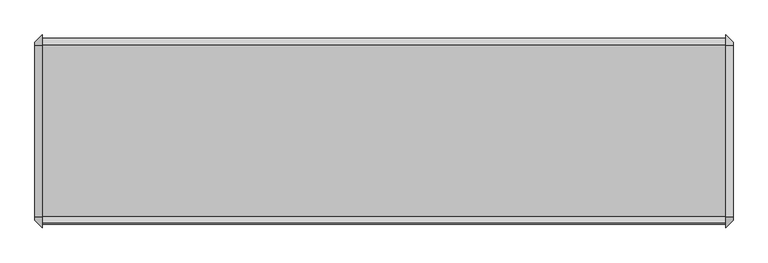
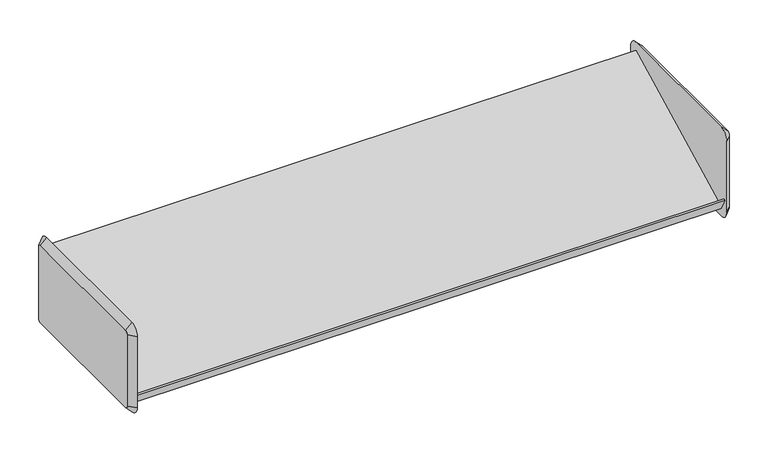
"""IFC4 building model written with IfcOpenShell, lengths in millimetres: furniture geometry."""

from ifc_helpers import new_model, si_unit, frame, origin, place, context, project, spatial, polyline, circle_curve, outline, extrude, source, transform, mapped, element, save
from ifc_brep_helpers import plane_surface, revolved_surface, advanced_brep


def furniture_a5020ea5(model_context):
    return source(origin(), model_context, "Body", "SolidModel", [
        advanced_brep(
        [(485.6579955, 161.925, 1092.2), (485.6579955, -136.525, 1092.2), (485.6579955, -142.875, 1085.85), (485.6579955, -142.875, 933.45), (485.6579955, -136.525, 927.1), (485.6579955, 161.925, 927.1), (485.6579955, 168.275, 933.45), (485.6579955, 168.275, 1085.85), (472.9579955, 161.925, 1104.9), (472.9579955, 180.975, 1085.85), (472.9579955, 180.975, 933.45), (472.9579955, 161.925, 914.4), (472.9579955, -136.525, 914.4), (472.9579955, -155.575, 933.45), (472.9579955, -155.575, 1085.85), (472.9579955, -136.525, 1104.9)],
        [
            (0, 1),
            (1, 2, circle_curve(frame((485.6579955, -136.525, 1085.85), z_axis=(1.0, 2.0756729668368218e-12, -2.174260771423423e-12), x_axis=(2.1742640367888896e-12, 0.0, 1.0)), 6.35)),
            (2, 3),
            (3, 4, circle_curve(frame((485.6579955, -136.525, 933.45), z_axis=(1.0, 2.0623502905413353e-12, 2.046363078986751e-12), x_axis=(2.0623164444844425e-12, -1.0, 0.0)), 6.35)),
            (4, 5),
            (5, 6, circle_curve(frame((485.6579955, 161.925, 933.45), z_axis=(1.0, 2.0889956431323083e-12, -2.0996537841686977e-12), x_axis=(-2.0996846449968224e-12, 0.0, -1.0)), 6.35)),
            (6, 7),
            (7, 0, circle_curve(frame((485.6579955, 161.925, 1085.85), z_axis=(1.0, 2.0783375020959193e-12, 1.971756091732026e-12), x_axis=(-2.0783313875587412e-12, 1.0, 0.0)), 6.35)),
            (8, 9, circle_curve(frame((472.9579955, 161.925, 1085.85), z_axis=(-1.0, -2.0783375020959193e-12, -1.971756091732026e-12), x_axis=(-2.0783313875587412e-12, 1.0, 0.0)), 19.05)),
            (9, 10),
            (10, 11, circle_curve(frame((472.9579955, 161.925, 933.45), z_axis=(-1.0, -2.0889956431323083e-12, 2.0996537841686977e-12), x_axis=(-2.0996846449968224e-12, 0.0, -1.0)), 19.05)),
            (11, 12),
            (12, 13, circle_curve(frame((472.9579955, -136.525, 933.45), z_axis=(-1.0, -2.0623502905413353e-12, -2.046363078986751e-12), x_axis=(2.0623164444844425e-12, -1.0, 0.0)), 19.05)),
            (13, 14),
            (14, 15, circle_curve(frame((472.9579955, -136.525, 1085.85), z_axis=(-1.0, -2.0756729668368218e-12, 2.174260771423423e-12), x_axis=(2.1742640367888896e-12, 0.0, 1.0)), 19.05)),
            (15, 8),
            (15, 1),
            (0, 8),
            (14, 2),
            (13, 3),
            (12, 4),
            (11, 5),
            (10, 6),
            (9, 7),
        ],
        [
            plane_surface(frame((485.6579955, 12.7, 1009.65), z_axis=(1.0, 0.0, 0.0), x_axis=(0.0, -1.0, 0.0))),
            plane_surface(frame((472.9579955, 12.7, 1009.65), z_axis=(-1.0, 0.0, 0.0), x_axis=(0.0, -1.0, 0.0))),
            plane_surface(frame((472.9579955, 12.7, 1104.9), z_axis=(0.7071067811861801, 0.0, 0.707106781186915), x_axis=(0.0, -1.0, 0.0))),
            revolved_surface(polyline([(485.65799550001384, -136.525, 1092.1999999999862), (472.9579955, -136.525, 1104.9)]), (492.0079955, -136.525, 1085.85), (-1.0, -2.0756729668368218e-12, 2.174260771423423e-12)),
            plane_surface(frame((472.9579955, -155.575, 1009.65), z_axis=(0.7071067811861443, -0.7071067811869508, 0.0), x_axis=(0.0, 0.0, -1.0))),
            revolved_surface(polyline([(485.6579955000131, -142.87499999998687, 933.45), (472.9579955, -155.575, 933.45)]), (492.0079955, -136.525, 933.45), (-1.0, -2.0623502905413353e-12, -2.046363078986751e-12)),
            plane_surface(frame((472.9579955, 12.7, 914.4), z_axis=(0.7071067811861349, 0.0, -0.7071067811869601), x_axis=(0.0, 1.0, 0.0))),
            revolved_surface(polyline([(485.6579955, 161.925, 927.1), (472.95799549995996, 161.925, 914.39999999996)]), (492.0079955, 161.925, 933.45), (-1.0, -2.0889956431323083e-12, 2.0996537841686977e-12)),
            plane_surface(frame((472.9579955, 180.975, 1009.65), z_axis=(0.7071067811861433, 0.7071067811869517, 0.0), x_axis=(0.0, 0.0, 1.0))),
            revolved_surface(polyline([(485.6579955, 168.27499999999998, 1085.85), (472.95799549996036, 180.97500000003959, 1085.85)]), (492.0079955, 161.925, 1085.85), (-1.0, -2.0783375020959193e-12, -1.971756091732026e-12)),
        ],
        [
            (0, [[1, 2, 3, 4, 5, 6, 7, 8]]),
            (1, [[9, 10, 11, 12, 13, 14, 15, 16]]),
            (2, [[-16, 17, -1, 18]]),
            (3, [[-15, 19, -2, -17]]),
            (4, [[-14, 20, -3, -19]]),
            (5, [[-13, 21, -4, -20]]),
            (6, [[-12, 22, -5, -21]]),
            (7, [[-11, 23, -6, -22]]),
            (8, [[-10, 24, -7, -23]]),
            (9, [[-9, -18, -8, -24]]),
        ],
    ),
        advanced_brep(
        [(-733.5420045, -136.525, 1092.2), (-733.5420045, 161.925, 1092.2), (-733.5420045, 168.275, 1085.85), (-733.5420045, 168.275, 933.45), (-733.5420045, 161.925, 927.1), (-733.5420045, -136.525, 927.1), (-733.5420045, -142.875, 933.45), (-733.5420045, -142.875, 1085.85), (-720.8420045, -136.525, 1104.9), (-720.8420045, -155.575, 1085.85), (-720.8420045, -155.575, 933.45), (-720.8420045, -136.525, 914.4), (-720.8420045, 161.925, 914.4), (-720.8420045, 180.975, 933.45), (-720.8420045, 180.975, 1085.85), (-720.8420045, 161.925, 1104.9)],
        [
            (0, 1),
            (1, 2, circle_curve(frame((-733.5420045, 161.925, 1085.85), z_axis=(-1.0, 0.0, 0.0), x_axis=(0.0, 0.0, 1.0)), 6.35)),
            (2, 3),
            (3, 4, circle_curve(frame((-733.5420045, 161.925, 933.45), z_axis=(-1.0, 0.0, 0.0), x_axis=(0.0, 1.0, 0.0)), 6.35)),
            (4, 5),
            (5, 6, circle_curve(frame((-733.5420045, -136.525, 933.45), z_axis=(-1.0, 0.0, 0.0), x_axis=(0.0, 0.0, -1.0)), 6.35)),
            (6, 7),
            (7, 0, circle_curve(frame((-733.5420045, -136.525, 1085.85), z_axis=(-1.0, 0.0, 0.0), x_axis=(0.0, -1.0, 0.0)), 6.35)),
            (8, 9, circle_curve(frame((-720.8420045, -136.525, 1085.85), z_axis=(1.0, 0.0, 0.0), x_axis=(0.0, -1.0, 0.0)), 19.05)),
            (9, 10),
            (10, 11, circle_curve(frame((-720.8420045, -136.525, 933.45), z_axis=(1.0, 0.0, 0.0), x_axis=(0.0, 0.0, -1.0)), 19.05)),
            (11, 12),
            (12, 13, circle_curve(frame((-720.8420045, 161.925, 933.45), z_axis=(1.0, 0.0, 0.0), x_axis=(0.0, 1.0, 0.0)), 19.05)),
            (13, 14),
            (14, 15, circle_curve(frame((-720.8420045, 161.925, 1085.85), z_axis=(1.0, 0.0, 0.0), x_axis=(0.0, 0.0, 1.0)), 19.05)),
            (15, 8),
            (15, 1),
            (0, 8),
            (14, 2),
            (13, 3),
            (12, 4),
            (11, 5),
            (10, 6),
            (9, 7),
        ],
        [
            plane_surface(frame((-733.5420045, 12.7, 1009.65), z_axis=(-1.0, 0.0, 0.0), x_axis=(0.0, -1.0, 0.0))),
            plane_surface(frame((-720.8420045, 12.7, 1009.65), z_axis=(1.0, 0.0, 0.0), x_axis=(0.0, -1.0, 0.0))),
            plane_surface(frame((-720.8420045, 12.7, 1104.9), z_axis=(-0.707106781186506, 0.0, 0.707106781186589), x_axis=(0.0, 1.0, 0.0))),
            revolved_surface(polyline([(-733.5420045, 161.925, 1092.2), (-720.8420045, 161.925, 1104.9)]), (-739.8920045, 161.925, 1085.85), (1.0, 0.0, 0.0)),
            plane_surface(frame((-720.8420045, 180.975, 1009.65), z_axis=(-0.7071067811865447, 0.7071067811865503, 0.0), x_axis=(0.0, 0.0, -1.0))),
            revolved_surface(polyline([(-733.5420045, 168.27500000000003, 933.45), (-720.8420045, 180.975, 933.45)]), (-739.8920045, 161.925, 933.45), (1.0, 0.0, 0.0)),
            plane_surface(frame((-720.8420045, 12.7, 914.4), z_axis=(-0.7071067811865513, 0.0, -0.7071067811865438), x_axis=(0.0, -1.0, 0.0))),
            revolved_surface(polyline([(-733.5420045, -136.525, 927.1), (-720.8420045, -136.525, 914.4)]), (-739.8920045, -136.525, 933.45), (1.0, 0.0, 0.0)),
            plane_surface(frame((-720.8420045, -155.575, 1009.65), z_axis=(-0.7071067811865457, -0.7071067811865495, 0.0), x_axis=(0.0, 0.0, 1.0))),
            revolved_surface(polyline([(-733.5420045, -142.87500000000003, 1085.85), (-720.8420045, -155.575, 1085.85)]), (-739.8920045, -136.525, 1085.85), (1.0, 0.0, 0.0)),
        ],
        [
            (0, [[1, 2, 3, 4, 5, 6, 7, 8]]),
            (1, [[9, 10, 11, 12, 13, 14, 15, 16]]),
            (2, [[-16, 17, -1, 18]]),
            (3, [[-15, 19, -2, -17]]),
            (4, [[-14, 20, -3, -19]]),
            (5, [[-13, 21, -4, -20]]),
            (6, [[-12, 22, -5, -21]]),
            (7, [[-11, 23, -6, -22]]),
            (8, [[-10, 24, -7, -23]]),
            (9, [[-9, -18, -8, -24]]),
        ],
    ),
        extrude(outline(polyline([(-137.2094993, 931.3179666), (-149.845093, 955.7467844), (-147.0173828, 957.1907216), (-135.8404765, 935.5820334), (162.5893131, 1087.9717194), (175.2453599, 1064.3470972), (172.4171401, 1062.9028998), (161.2606869, 1083.7282806), (-137.2094993, 931.3179666)])), frame((-720.8420045, 0.0, 0.0), z_axis=(1.0, 0.0, 0.0), x_axis=(0.0, 1.0, 0.0)), (0.0, 0.0, 1.0), 1193.8),
    ])


if __name__ == "__main__":
    model = new_model("IFC4")
    model_context = context("Model", 3, world=origin())
    ifc_project = project(units=[si_unit("LENGTHUNIT", "METRE", prefix="MILLI")], contexts=[model_context])
    site = spatial("IfcSite", under=ifc_project)
    building = spatial("IfcBuilding", under=site)
    placement = place(None, origin())
    furniture_shape = furniture_a5020ea5(model_context)
    element("IfcFurniture", 1, ObjectType="HermanMiller_ActionOffice_A3220_B-StyleStorageDisplay : Display 13\"D x 48\"W", at=placement, inside=building, context=model_context, shape_type="MappedRepresentation", body=[
        mapped(furniture_shape, transform((0.0, 0.0, 0.0), x_axis=(1.0, 0.0, 0.0), y_axis=(0.0, 1.0, 0.0), z_axis=(0.0, 0.0, 1.0))),
    ])
    save(model, "model.ifc")
